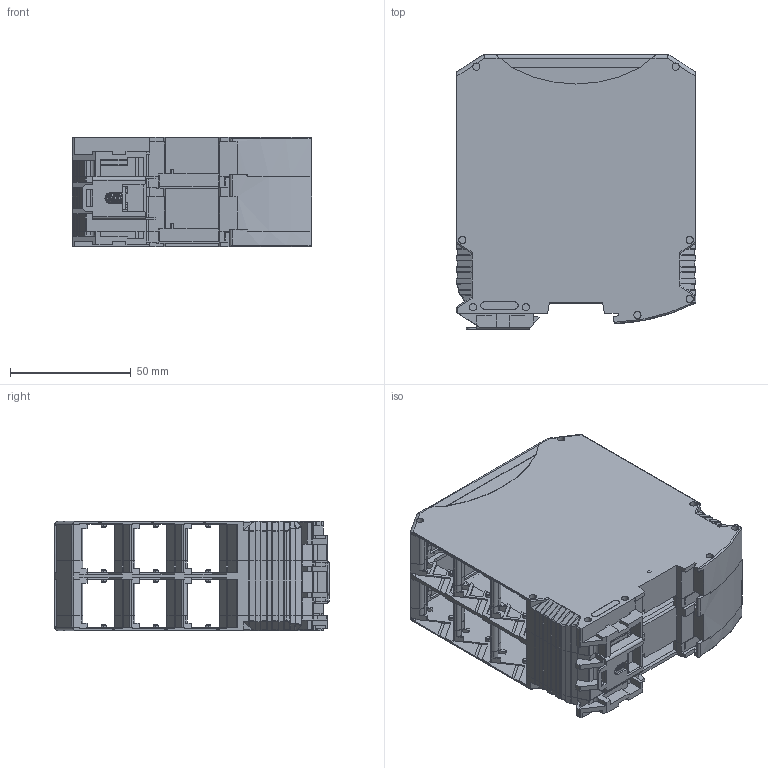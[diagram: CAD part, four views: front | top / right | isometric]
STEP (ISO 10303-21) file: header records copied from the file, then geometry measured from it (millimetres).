
FILE_DESCRIPTION(('SolidDesigner STEP Export'),'2;1');
FILE_NAME('2713926.stp','2016-05-13T 8:57:15',(''),(''),'Creo Elements/Direct Modeling STEP processor for AP214 (Solid Model)','Creo Elements/Direct Modeling 18.1G 27-Feb-2015 (C) Parametric Technology GmbH','');
FILE_SCHEMA(('AUTOMOTIVE_DESIGN { 1 0 10303 214 1 1 1 1 }'));
Length unit declared in the file: millimetre
Products named in the file (8): ME_MAX_22_5_PLATE_H.Select__00480393; Fussriegel_17.5_L30_H.Select__00315466; ME_MAX_22_5_GEH-R_CL_G_3-3_H.Select_00483135; ME_MAX_22_5_DKL_CL_H.Select__00472368.1; ME_MAX_45_MT_CL_G_3-3_H.Select__00484545; ME_MAX_GEH-L_CL_G_3-3_H.Select__00481440; VAL-M_FEDER_0.5MM_vorgespannt_H.Select_00757586; 2713926
Assembly tree (9 placements, depth 2):
  2713926
    VAL-M_FEDER_0.5MM_vorgespannt_H.Select_00757586
    ME_MAX_GEH-L_CL_G_3-3_H.Select__00481440
    ME_MAX_22_5_DKL_CL_H.Select__00472368.1  x2
    ME_MAX_22_5_PLATE_H.Select__00480393  x2
    ME_MAX_45_MT_CL_G_3-3_H.Select__00484545
    ME_MAX_22_5_GEH-R_CL_G_3-3_H.Select_00483135
    Fussriegel_17.5_L30_H.Select__00315466
Bounding box: 99 x 113.65 x 45.2 mm (x, y, z)
Volume: 63392.3 mm3; surface area: 101140.7 mm2
Topology: 9 solids, 9 shells, 3332 faces, 9057 edges, 5940 vertices
Faces by surface type: plane 2403, cylinder 836, cone 85, bspline 6, torus 2
Entity records: 99549 total; most frequent: CARTESIAN_POINT 21341, ORIENTED_EDGE 16976, DIRECTION 15288, EDGE_CURVE 8488, VECTOR 6398, LINE 6398, VERTEX_POINT 5560, AXIS2_PLACEMENT_3D 4445
